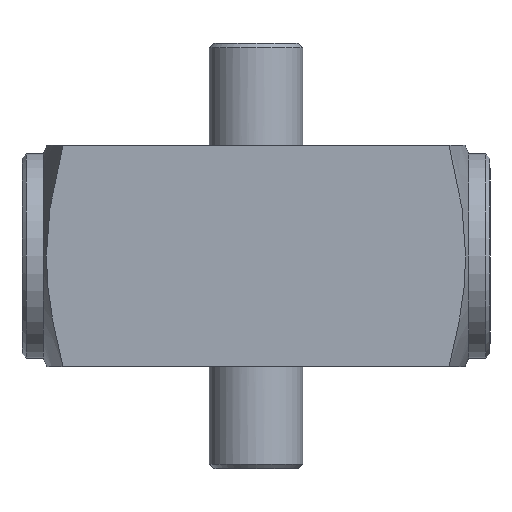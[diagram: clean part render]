
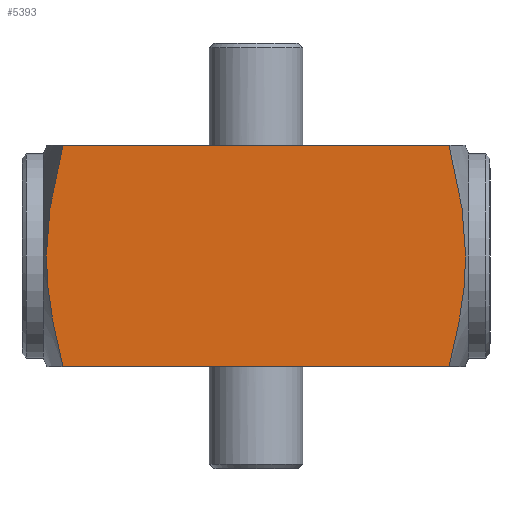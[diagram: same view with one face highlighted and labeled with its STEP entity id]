
A CAD part, front view. The second image highlights one B-rep face of the part: STEP entity #5393.
In plain terms, the highlighted planar face has unit normal (0, -1, 0).
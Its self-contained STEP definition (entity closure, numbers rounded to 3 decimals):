
#81=(
BOUNDED_CURVE()
B_SPLINE_CURVE(2,(#9905,#9906,#9907),.UNSPECIFIED.,.F.,.F.)
B_SPLINE_CURVE_WITH_KNOTS((3,3),(-23.04,-15.873),
 .UNSPECIFIED.)
CURVE()
GEOMETRIC_REPRESENTATION_ITEM()
RATIONAL_B_SPLINE_CURVE((5.229,6.312,6.312))
REPRESENTATION_ITEM('')
);
#82=(
BOUNDED_CURVE()
B_SPLINE_CURVE(2,(#9909,#9910,#9911,#9912),.UNSPECIFIED.,.F.,.F.)
B_SPLINE_CURVE_WITH_KNOTS((3,1,3),(8.797,13.607,16.029),
 .UNSPECIFIED.)
CURVE()
GEOMETRIC_REPRESENTATION_ITEM()
RATIONAL_B_SPLINE_CURVE((5.276,6.003,6.368,
6.368))
REPRESENTATION_ITEM('')
);
#83=(
BOUNDED_CURVE()
B_SPLINE_CURVE(2,(#9914,#9915,#9916),.UNSPECIFIED.,.F.,.F.)
B_SPLINE_CURVE_WITH_KNOTS((3,3),(16.029,23.26),
 .UNSPECIFIED.)
CURVE()
GEOMETRIC_REPRESENTATION_ITEM()
RATIONAL_B_SPLINE_CURVE((6.368,6.368,5.276))
REPRESENTATION_ITEM('')
);
#84=(
BOUNDED_CURVE()
B_SPLINE_CURVE(2,(#9919,#9920,#9921,#9922),.UNSPECIFIED.,.F.,.F.)
B_SPLINE_CURVE_WITH_KNOTS((3,1,3),(-15.873,-13.393,-8.706),
 .UNSPECIFIED.)
CURVE()
GEOMETRIC_REPRESENTATION_ITEM()
RATIONAL_B_SPLINE_CURVE((6.312,6.312,5.938,
5.229))
REPRESENTATION_ITEM('')
);
#601=FACE_OUTER_BOUND('',#920,.T.);
#920=EDGE_LOOP('',(#4629,#4630,#4631,#4632,#4633,#4634));
#1302=LINE('',#9436,#1741);
#1362=LINE('',#9918,#1801);
#1741=VECTOR('',#6392,10.);
#1801=VECTOR('',#6728,10.);
#2348=VERTEX_POINT('',#9426);
#2350=VERTEX_POINT('',#9432);
#2450=VERTEX_POINT('',#9904);
#2451=VERTEX_POINT('',#9908);
#2452=VERTEX_POINT('',#9913);
#2453=VERTEX_POINT('',#9917);
#3023=EDGE_CURVE('',#2350,#2348,#1302,.T.);
#3183=EDGE_CURVE('',#2348,#2450,#81,.T.);
#3184=EDGE_CURVE('',#2451,#2350,#82,.F.);
#3185=EDGE_CURVE('',#2452,#2451,#83,.F.);
#3186=EDGE_CURVE('',#2452,#2453,#1362,.T.);
#3187=EDGE_CURVE('',#2450,#2453,#84,.T.);
#4629=ORIENTED_EDGE('',*,*,#3183,.F.);
#4630=ORIENTED_EDGE('',*,*,#3023,.F.);
#4631=ORIENTED_EDGE('',*,*,#3184,.F.);
#4632=ORIENTED_EDGE('',*,*,#3185,.F.);
#4633=ORIENTED_EDGE('',*,*,#3186,.T.);
#4634=ORIENTED_EDGE('',*,*,#3187,.F.);
#4818=PLANE('',#5709);
#5393=ADVANCED_FACE('',(#601),#4818,.T.);
#5709=AXIS2_PLACEMENT_3D('',#9903,#6726,#6727);
#6392=DIRECTION('',(1.,0.,0.));
#6726=DIRECTION('center_axis',(0.,-1.,0.));
#6727=DIRECTION('ref_axis',(0.,0.,-1.));
#6728=DIRECTION('',(1.,0.,0.));
#9426=CARTESIAN_POINT('',(20.38,-34.12,13.));
#9432=CARTESIAN_POINT('',(-24.972,-34.12,13.));
#9436=CARTESIAN_POINT('',(-29.796,-34.12,13.));
#9903=CARTESIAN_POINT('Origin',(-29.796,-34.12,-13.));
#9904=CARTESIAN_POINT('',(22.34,-34.12,0.));
#9905=CARTESIAN_POINT('Ctrl Pts',(20.38,-34.12,13.));
#9906=CARTESIAN_POINT('Ctrl Pts',(22.34,-34.12,5.385));
#9907=CARTESIAN_POINT('Ctrl Pts',(22.34,-34.12,0.));
#9908=CARTESIAN_POINT('',(-26.932,-34.12,0.));
#9909=CARTESIAN_POINT('Ctrl Pts',(-24.972,-34.12,13.));
#9910=CARTESIAN_POINT('Ctrl Pts',(-26.355,-34.12,7.626));
#9911=CARTESIAN_POINT('Ctrl Pts',(-26.932,-34.12,1.803));
#9912=CARTESIAN_POINT('Ctrl Pts',(-26.932,-34.12,0.));
#9913=CARTESIAN_POINT('',(-24.972,-34.12,-13.));
#9914=CARTESIAN_POINT('Ctrl Pts',(-26.932,-34.12,0.));
#9915=CARTESIAN_POINT('Ctrl Pts',(-26.932,-34.12,-5.385));
#9916=CARTESIAN_POINT('Ctrl Pts',(-24.972,-34.12,-13.));
#9917=CARTESIAN_POINT('',(20.38,-34.12,-13.));
#9918=CARTESIAN_POINT('',(-29.796,-34.12,-13.));
#9919=CARTESIAN_POINT('Ctrl Pts',(22.34,-34.12,0.));
#9920=CARTESIAN_POINT('Ctrl Pts',(22.34,-34.12,-1.864));
#9921=CARTESIAN_POINT('Ctrl Pts',(21.743,-34.12,-7.706));
#9922=CARTESIAN_POINT('Ctrl Pts',(20.38,-34.12,-13.));
